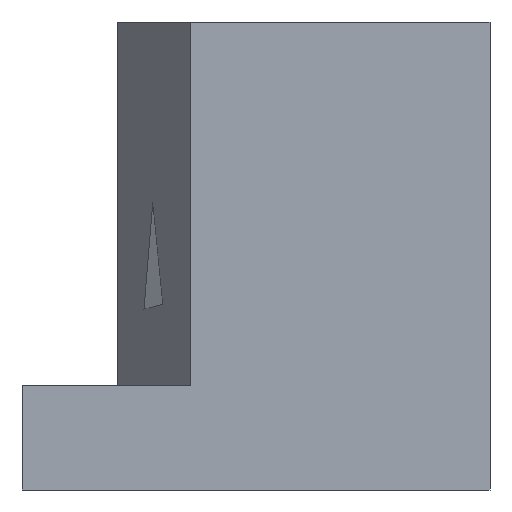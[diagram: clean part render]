
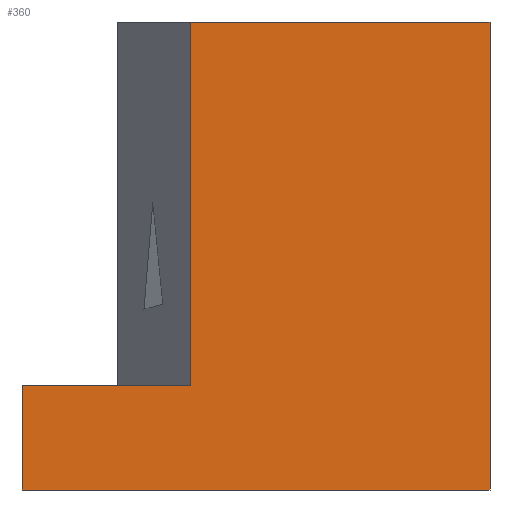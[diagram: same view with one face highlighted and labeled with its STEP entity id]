
A CAD part, left-side view. The second image highlights one B-rep face of the part: STEP entity #360.
In plain terms, the highlighted planar face has unit normal (-1, 0, 0).
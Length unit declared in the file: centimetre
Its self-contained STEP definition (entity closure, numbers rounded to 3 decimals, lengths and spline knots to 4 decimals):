
#29 = ORIENTED_EDGE ( 'NONE', *, *, #127, .T. ) ;
#42 = EDGE_CURVE ( 'NONE', #819, #328, #1026, .T. ) ;
#82 = DIRECTION ( 'NONE',  ( 0., 0., -1. ) ) ;
#86 = VERTEX_POINT ( 'NONE', #844 ) ;
#89 = DIRECTION ( 'NONE',  ( 0., 0., -1. ) ) ;
#92 = LINE ( 'NONE', #179, #827 ) ;
#127 = EDGE_CURVE ( 'NONE', #1016, #328, #92, .T. ) ;
#179 = CARTESIAN_POINT ( 'NONE',  ( 0., 1000., 0. ) ) ;
#185 = DIRECTION ( 'NONE',  ( 0., 0., -1. ) ) ;
#202 = PLANE ( 'NONE',  #498 ) ;
#220 = EDGE_CURVE ( 'NONE', #704, #86, #388, .T. ) ;
#251 = ORIENTED_EDGE ( 'NONE', *, *, #42, .F. ) ;
#268 = LINE ( 'NONE', #1002, #801 ) ;
#307 = EDGE_CURVE ( 'NONE', #86, #819, #574, .T. ) ;
#319 = CARTESIAN_POINT ( 'NONE',  ( 0., 639.0638, 222.4159 ) ) ;
#328 = VERTEX_POINT ( 'NONE', #1024 ) ;
#360 = ADVANCED_FACE ( 'NONE', ( #742 ), #202, .F. ) ;
#388 = LINE ( 'NONE', #1167, #396 ) ;
#396 = VECTOR ( 'NONE', #858, 100. ) ;
#440 = VERTEX_POINT ( 'NONE', #933 ) ;
#449 = DIRECTION ( 'NONE',  ( 1., 0., 0. ) ) ;
#498 = AXIS2_PLACEMENT_3D ( 'NONE', #1018, #449, #89 ) ;
#535 = CARTESIAN_POINT ( 'NONE',  ( 0., 1000., 1000. ) ) ;
#550 = VECTOR ( 'NONE', #82, 100. ) ;
#559 = ORIENTED_EDGE ( 'NONE', *, *, #1131, .F. ) ;
#574 = LINE ( 'NONE', #957, #986 ) ;
#635 = VECTOR ( 'NONE', #185, 100. ) ;
#642 = LINE ( 'NONE', #535, #550 ) ;
#704 = VERTEX_POINT ( 'NONE', #319 ) ;
#742 = FACE_OUTER_BOUND ( 'NONE', #1116, .T. ) ;
#801 = VECTOR ( 'NONE', #1017, 100. ) ;
#819 = VERTEX_POINT ( 'NONE', #973 ) ;
#827 = VECTOR ( 'NONE', #937, 100. ) ;
#844 = CARTESIAN_POINT ( 'NONE',  ( 0., 639.0638, 1000. ) ) ;
#858 = DIRECTION ( 'NONE',  ( 0., 0., 1. ) ) ;
#879 = CARTESIAN_POINT ( 'NONE',  ( 0., 1000., 0. ) ) ;
#895 = DIRECTION ( 'NONE',  ( 0., -1., 0. ) ) ;
#933 = CARTESIAN_POINT ( 'NONE',  ( 0., 1000., 222.4159 ) ) ;
#937 = DIRECTION ( 'NONE',  ( 0., -1., 0. ) ) ;
#949 = CARTESIAN_POINT ( 'NONE',  ( 0., 0., 1000. ) ) ;
#957 = CARTESIAN_POINT ( 'NONE',  ( 0., 1000., 1000. ) ) ;
#973 = CARTESIAN_POINT ( 'NONE',  ( 0., 0., 1000. ) ) ;
#986 = VECTOR ( 'NONE', #895, 100. ) ;
#1002 = CARTESIAN_POINT ( 'NONE',  ( 0., 639.0638, 222.4159 ) ) ;
#1016 = VERTEX_POINT ( 'NONE', #879 ) ;
#1017 = DIRECTION ( 'NONE',  ( 0., -1., 0. ) ) ;
#1018 = CARTESIAN_POINT ( 'NONE',  ( 0., 1000., 1000. ) ) ;
#1024 = CARTESIAN_POINT ( 'NONE',  ( 0., 0., 0. ) ) ;
#1026 = LINE ( 'NONE', #949, #635 ) ;
#1094 = EDGE_CURVE ( 'NONE', #440, #1016, #642, .T. ) ;
#1116 = EDGE_LOOP ( 'NONE', ( #1193, #1165, #559, #1158, #29, #251 ) ) ;
#1131 = EDGE_CURVE ( 'NONE', #440, #704, #268, .T. ) ;
#1158 = ORIENTED_EDGE ( 'NONE', *, *, #1094, .T. ) ;
#1165 = ORIENTED_EDGE ( 'NONE', *, *, #220, .F. ) ;
#1167 = CARTESIAN_POINT ( 'NONE',  ( 0., 639.0638, 222.4159 ) ) ;
#1193 = ORIENTED_EDGE ( 'NONE', *, *, #307, .F. ) ;
